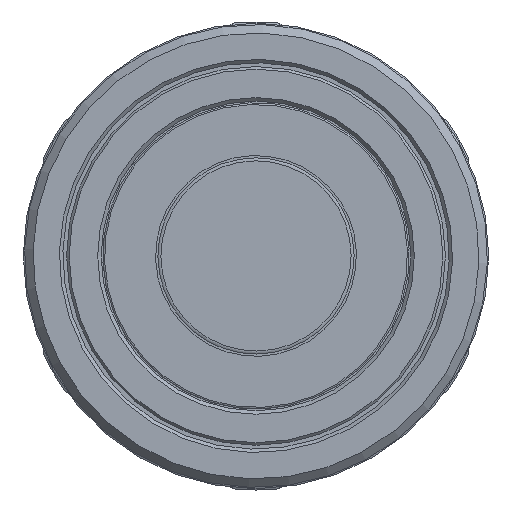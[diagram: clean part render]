
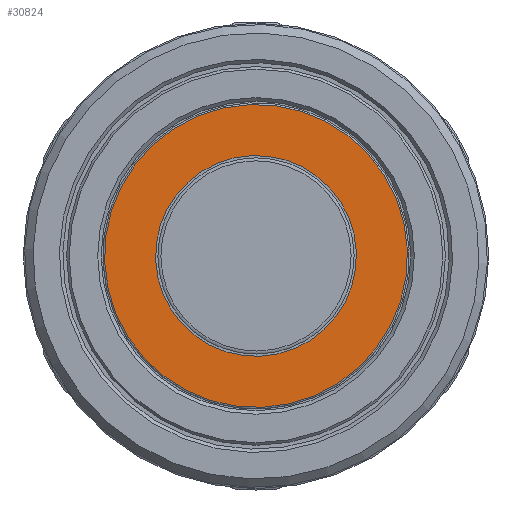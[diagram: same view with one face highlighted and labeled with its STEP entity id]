
A CAD part, left-side view. The second image highlights one B-rep face of the part: STEP entity #30824.
In plain terms, the highlighted planar face has unit normal (-1, 0, 0).
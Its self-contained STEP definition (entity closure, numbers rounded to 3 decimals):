
#1277=PLANE('',#32460);
#1626=FACE_BOUND('',#3909,.T.);
#2209=FACE_OUTER_BOUND('',#3908,.T.);
#3908=EDGE_LOOP('',(#22799));
#3909=EDGE_LOOP('',(#22800));
#11218=CIRCLE('',#32458,17.8);
#11220=CIRCLE('',#32461,11.8);
#13031=VERTEX_POINT('',#50240);
#13032=VERTEX_POINT('',#50245);
#16632=EDGE_CURVE('',#13031,#13031,#11218,.T.);
#16634=EDGE_CURVE('',#13032,#13032,#11220,.T.);
#22799=ORIENTED_EDGE('',*,*,#16632,.F.);
#22800=ORIENTED_EDGE('',*,*,#16634,.T.);
#30824=ADVANCED_FACE('',(#2209,#1626),#1277,.T.);
#32458=AXIS2_PLACEMENT_3D('',#50242,#34873,#34874);
#32460=AXIS2_PLACEMENT_3D('',#50244,#34877,#34878);
#32461=AXIS2_PLACEMENT_3D('',#50246,#34879,#34880);
#34873=DIRECTION('center_axis',(1.,0.,0.));
#34874=DIRECTION('ref_axis',(0.,0.218,0.976));
#34877=DIRECTION('center_axis',(-1.,0.,0.));
#34878=DIRECTION('ref_axis',(0.,-0.976,0.218));
#34879=DIRECTION('center_axis',(1.,0.,0.));
#34880=DIRECTION('ref_axis',(0.,0.218,0.976));
#50240=CARTESIAN_POINT('',(-35.3,-17.37,3.889));
#50242=CARTESIAN_POINT('Origin',(-35.3,0.,0.));
#50244=CARTESIAN_POINT('Origin',(-35.3,-3.933,-17.565));
#50245=CARTESIAN_POINT('',(-35.3,2.578,11.515));
#50246=CARTESIAN_POINT('Origin',(-35.3,0.,0.));
